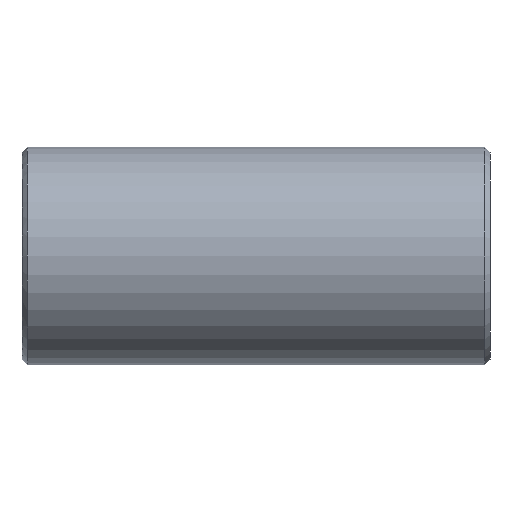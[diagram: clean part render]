
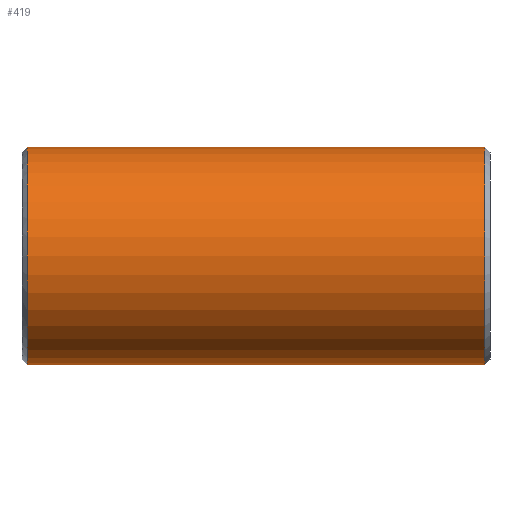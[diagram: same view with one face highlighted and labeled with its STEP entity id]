
A CAD part, front view. The second image highlights one B-rep face of the part: STEP entity #419.
In plain terms, the highlighted cylindrical face has radius 20 mm (diameter 40 mm), a partial arc.
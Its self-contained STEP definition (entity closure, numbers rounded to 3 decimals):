
#231=CARTESIAN_POINT('Vertex',(1.,0.,-20.)) ;
#238=CARTESIAN_POINT('Vertex',(1.,0.,20.)) ;
#267=CARTESIAN_POINT('Axis2P3D Location',(1.,0.,0.)) ;
#271=CARTESIAN_POINT('Vertex',(1.,-20.,0.)) ;
#274=CARTESIAN_POINT('Axis2P3D Location',(1.,0.,0.)) ;
#359=CARTESIAN_POINT('Line Origine',(86.,0.,20.)) ;
#363=CARTESIAN_POINT('Vertex',(85.,0.,20.)) ;
#377=CARTESIAN_POINT('Vertex',(85.,0.,-20.)) ;
#380=CARTESIAN_POINT('Line Origine',(86.,0.,-20.)) ;
#394=CARTESIAN_POINT('Axis2P3D Location',(86.,0.,0.)) ;
#399=CARTESIAN_POINT('Axis2P3D Location',(85.,0.,0.)) ;
#403=CARTESIAN_POINT('Vertex',(85.,-20.,0.)) ;
#406=CARTESIAN_POINT('Axis2P3D Location',(85.,0.,0.)) ;
#268=DIRECTION('Axis2P3D Direction',(1.,0.,-0.)) ;
#275=DIRECTION('Axis2P3D Direction',(1.,0.,-0.)) ;
#360=DIRECTION('Vector Direction',(-1.,0.,0.)) ;
#381=DIRECTION('Vector Direction',(-1.,0.,0.)) ;
#395=DIRECTION('Axis2P3D Direction',(-1.,-0.,-0.)) ;
#396=DIRECTION('Axis2P3D XDirection',(0.,0.,-1.)) ;
#400=DIRECTION('Axis2P3D Direction',(-1.,-0.,-0.)) ;
#407=DIRECTION('Axis2P3D Direction',(-1.,-0.,-0.)) ;
#269=AXIS2_PLACEMENT_3D('Circle Axis2P3D',#267,#268,$) ;
#276=AXIS2_PLACEMENT_3D('Circle Axis2P3D',#274,#275,$) ;
#397=AXIS2_PLACEMENT_3D('Cylinder Axis2P3D',#394,#395,#396) ;
#401=AXIS2_PLACEMENT_3D('Circle Axis2P3D',#399,#400,$) ;
#408=AXIS2_PLACEMENT_3D('Circle Axis2P3D',#406,#407,$) ;
#412=ORIENTED_EDGE('',*,*,#384,.T.) ;
#413=ORIENTED_EDGE('',*,*,#405,.F.) ;
#414=ORIENTED_EDGE('',*,*,#410,.F.) ;
#415=ORIENTED_EDGE('',*,*,#365,.T.) ;
#416=ORIENTED_EDGE('',*,*,#278,.T.) ;
#417=ORIENTED_EDGE('',*,*,#273,.T.) ;
#361=VECTOR('Line Direction',#360,1.) ;
#382=VECTOR('Line Direction',#381,1.) ;
#419=ADVANCED_FACE('352-32X86',(#418),#398,.T.) ;
#270=CIRCLE('generated circle',#269,20.) ;
#277=CIRCLE('generated circle',#276,20.) ;
#402=CIRCLE('generated circle',#401,20.) ;
#409=CIRCLE('generated circle',#408,20.) ;
#398=CYLINDRICAL_SURFACE('generated cylinder',#397,20.) ;
#273=EDGE_CURVE('',#272,#232,#270,.T.) ;
#278=EDGE_CURVE('',#239,#272,#277,.T.) ;
#365=EDGE_CURVE('',#364,#239,#362,.T.) ;
#384=EDGE_CURVE('',#232,#378,#383,.F.) ;
#405=EDGE_CURVE('',#404,#378,#402,.F.) ;
#410=EDGE_CURVE('',#364,#404,#409,.F.) ;
#411=EDGE_LOOP('',(#412,#413,#414,#415,#416,#417)) ;
#418=FACE_OUTER_BOUND('',#411,.T.) ;
#362=LINE('Line',#359,#361) ;
#383=LINE('Line',#380,#382) ;
#232=VERTEX_POINT('',#231) ;
#239=VERTEX_POINT('',#238) ;
#272=VERTEX_POINT('',#271) ;
#364=VERTEX_POINT('',#363) ;
#378=VERTEX_POINT('',#377) ;
#404=VERTEX_POINT('',#403) ;
